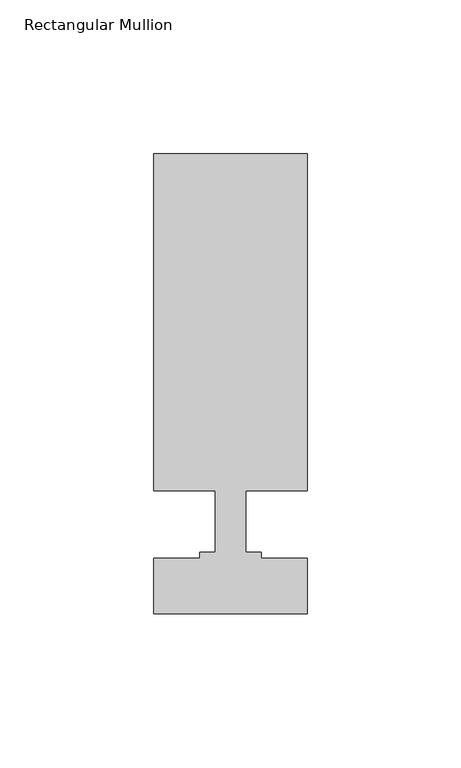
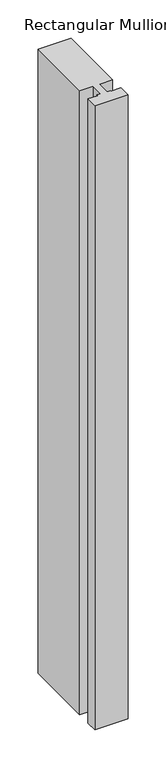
"""IFC4 building model written with IfcOpenShell, lengths in millimetres: member geometry, Rectangular Mullion : TR_CW_¸ALU_internal."""

from ifc_helpers import new_model, si_unit, frame, origin, place, context, project, spatial, polyline, outline, extrude, source, transform, mapped, element, save


def rectangular_mullion_6f3fd3cb(model_context):
    return source(origin(), model_context, "Body", "SweptSolid", [
        extrude(outline(polyline([(25.0, 0.0), (-25.0, 0.0), (-25.0, 18.0204111), (-10.0, 18.0204111), (-10.0, 20.0), (-5.0, 20.0), (-5.0, 40.0), (-25.0, 40.0), (-25.0, 149.8096073), (25.0, 149.8096073), (25.0, 40.0), (5.0, 40.0), (5.0, 20.0), (10.0, 20.0), (10.0, 18.0204111), (25.0, 18.0204111), (25.0, 0.0)])), frame((0.0, 0.0, -1000.0), z_axis=(0.0, 0.0, 1.0), x_axis=(1.0, 0.0, 0.0)), (0.0, 0.0, 1.0), 1000.0),
    ])


if __name__ == "__main__":
    model = new_model("IFC4")
    model_context = context("Model", 3, world=origin())
    ifc_project = project(units=[si_unit("LENGTHUNIT", "METRE", prefix="MILLI")], contexts=[model_context])
    site = spatial("IfcSite", under=ifc_project)
    building = spatial("IfcBuilding", under=site)
    placement = place(None, origin())
    rectangular_mullion_shape = rectangular_mullion_6f3fd3cb(model_context)
    element("IfcMember", 1, ObjectType="Rectangular Mullion : TR_CW_¸ALU_internal", at=placement, inside=building, context=model_context, shape_type="MappedRepresentation", body=[
        mapped(rectangular_mullion_shape, transform((0.0, 0.0, 0.0), x_axis=(1.0, 0.0, 0.0), y_axis=(0.0, 1.0, 0.0), z_axis=(0.0, 0.0, 1.0))),
    ])
    save(model, "model.ifc")
